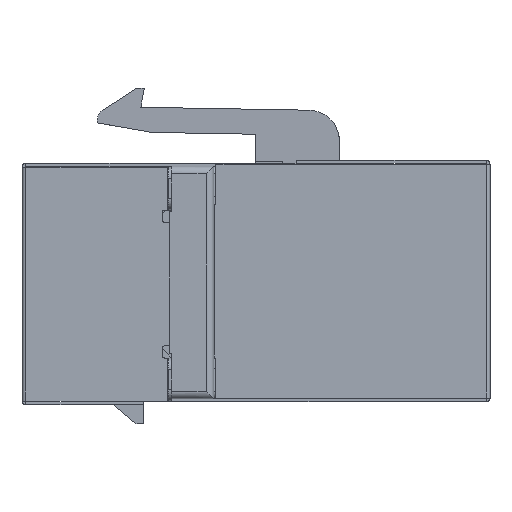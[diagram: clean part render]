
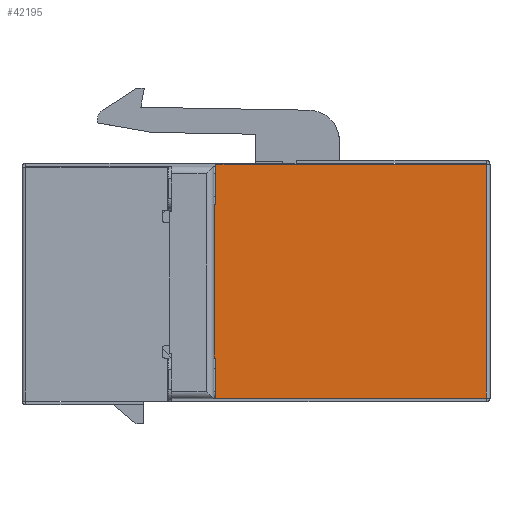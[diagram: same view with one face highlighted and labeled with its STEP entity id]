
A CAD part, left-side view. The second image highlights one B-rep face of the part: STEP entity #42195.
In plain terms, the highlighted planar face has unit normal (-1, 0, 0).
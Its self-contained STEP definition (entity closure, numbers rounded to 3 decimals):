
#15071=DIRECTION('',(0.,0.,-1.));
#15072=VECTOR('',#15071,15.5);
#15073=CARTESIAN_POINT('',(46.915,-25.95,78.485));
#15074=LINE('',#15073,#15072);
#15093=DIRECTION('',(0.,1.,0.));
#15094=VECTOR('',#15093,17.9);
#15095=CARTESIAN_POINT('',(46.915,-25.95,62.985));
#15096=LINE('',#15095,#15094);
#15097=DIRECTION('',(0.,0.,1.));
#15098=VECTOR('',#15097,2.65);
#15099=CARTESIAN_POINT('',(46.915,-8.05,62.985));
#15100=LINE('',#15099,#15098);
#15105=DIRECTION('',(0.,0.,1.));
#15106=VECTOR('',#15105,10.2);
#15107=CARTESIAN_POINT('',(46.915,-7.92,65.635));
#15108=LINE('',#15107,#15106);
#15167=DIRECTION('',(0.,1.,0.));
#15168=VECTOR('',#15167,0.13);
#15169=CARTESIAN_POINT('',(46.915,-8.05,65.635));
#15170=LINE('',#15169,#15168);
#15179=DIRECTION('',(0.,-1.,0.));
#15180=VECTOR('',#15179,17.9);
#15181=CARTESIAN_POINT('',(46.915,-8.05,78.485));
#15182=LINE('',#15181,#15180);
#15183=DIRECTION('',(0.,0.,1.));
#15184=VECTOR('',#15183,2.65);
#15185=CARTESIAN_POINT('',(46.915,-8.05,75.835));
#15186=LINE('',#15185,#15184);
#15191=DIRECTION('',(0.,-1.,0.));
#15192=VECTOR('',#15191,0.13);
#15193=CARTESIAN_POINT('',(46.915,-7.92,75.835));
#15194=LINE('',#15193,#15192);
#29682=CARTESIAN_POINT('',(46.915,-7.92,65.635));
#29683=CARTESIAN_POINT('',(46.915,-7.92,75.835));
#29684=VERTEX_POINT('',#29682);
#29685=VERTEX_POINT('',#29683);
#29686=CARTESIAN_POINT('',(46.915,-8.05,65.635));
#29687=VERTEX_POINT('',#29686);
#29688=CARTESIAN_POINT('',(46.915,-8.05,62.985));
#29689=VERTEX_POINT('',#29688);
#29690=CARTESIAN_POINT('',(46.915,-25.95,62.985));
#29691=VERTEX_POINT('',#29690);
#29692=CARTESIAN_POINT('',(46.915,-25.95,78.485));
#29693=VERTEX_POINT('',#29692);
#29694=CARTESIAN_POINT('',(46.915,-8.05,78.485));
#29695=VERTEX_POINT('',#29694);
#29696=CARTESIAN_POINT('',(46.915,-8.05,75.835));
#29697=VERTEX_POINT('',#29696);
#42175=CARTESIAN_POINT('',(46.915,-26.2,1400.104));
#42176=DIRECTION('',(-1.,0.,0.));
#42177=DIRECTION('',(0.,-1.,0.));
#42178=AXIS2_PLACEMENT_3D('',#42175,#42176,#42177);
#42179=PLANE('',#42178);
#42181=ORIENTED_EDGE('',*,*,#42180,.T.);
#42183=ORIENTED_EDGE('',*,*,#42182,.T.);
#42185=ORIENTED_EDGE('',*,*,#42184,.T.);
#42187=ORIENTED_EDGE('',*,*,#42186,.T.);
#42188=ORIENTED_EDGE('',*,*,#42125,.T.);
#42189=ORIENTED_EDGE('',*,*,#42152,.T.);
#42190=ORIENTED_EDGE('',*,*,#42165,.T.);
#42192=ORIENTED_EDGE('',*,*,#42191,.T.);
#42193=EDGE_LOOP('',(#42181,#42183,#42185,#42187,#42188,#42189,#42190,#42192));
#42194=FACE_OUTER_BOUND('',#42193,.F.);
#42195=ADVANCED_FACE('',(#42194),#42179,.T.);
#42125=EDGE_CURVE('',#29693,#29691,#15074,.T.);
#42152=EDGE_CURVE('',#29691,#29689,#15096,.T.);
#42165=EDGE_CURVE('',#29689,#29687,#15100,.T.);
#42180=EDGE_CURVE('',#29684,#29685,#15108,.T.);
#42182=EDGE_CURVE('',#29685,#29697,#15194,.T.);
#42184=EDGE_CURVE('',#29697,#29695,#15186,.T.);
#42186=EDGE_CURVE('',#29695,#29693,#15182,.T.);
#42191=EDGE_CURVE('',#29687,#29684,#15170,.T.);
